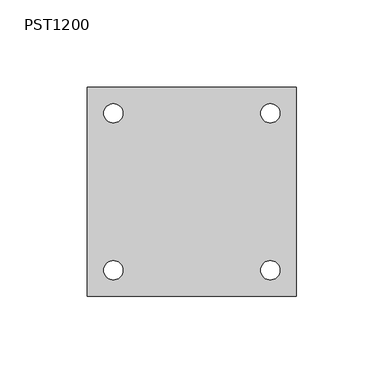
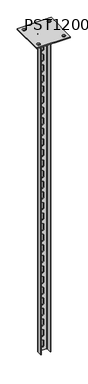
"""IFC4 building model written with IfcOpenShell, lengths in millimetres: proxy geometry, КМ Профиль_Стойка потолочная облегчённая PST : PST1200."""

from ifc_helpers import new_model, si_unit, point, frame, frame_2d, origin, place, context, project, spatial, polyline, circle_curve, trimmed, segment, composite_curve, outline, extrude, source, transform, mapped, element, save
from ifc_brep_helpers import plane_surface, cylinder_surface, revolved_surface, advanced_brep


def pst1200_ad20b11f(model_context):
    return source(origin(), model_context, "Body", "SolidModel", [
        advanced_brep(
        [(17.5, -11.5, -4.0), (17.5, 7.5, -4.0), (13.5, 11.5, -4.0), (-13.5, 11.5, -4.0), (-17.5, 7.5, -4.0), (-17.5, -11.5, -4.0), (-15.5, -11.5, -4.0), (-15.5, 7.5, -4.0), (-13.5, 9.5, -4.0), (13.5, 9.5, -4.0), (15.5, 7.5, -4.0), (15.5, -11.5, -4.0), (17.5, 7.5, -1204.0), (17.5, -11.5, -1204.0), (15.5, -11.5, -1204.0), (15.5, 7.5, -1204.0), (13.5, 9.5, -1204.0), (-13.5, 9.5, -1204.0), (-15.5, 7.5, -1204.0), (-15.5, -11.5, -1204.0), (-17.5, -11.5, -1204.0), (-17.5, 7.5, -1204.0), (-13.5, 11.5, -1204.0), (13.5, 11.5, -1204.0), (-5.0, 11.5, -53.0), (-5.0, 11.5, -68.0), (5.0, 11.5, -68.0), (5.0, 11.5, -53.0), (-5.0, 11.5, -93.0), (-5.0, 11.5, -108.0), (5.0, 11.5, -108.0), (5.0, 11.5, -93.0), (-5.0, 11.5, -133.0), (-5.0, 11.5, -148.0), (5.0, 11.5, -148.0), (5.0, 11.5, -133.0), (-5.0, 11.5, -173.0), (-5.0, 11.5, -188.0), (5.0, 11.5, -188.0), (5.0, 11.5, -173.0), (-5.0, 11.5, -213.0), (-5.0, 11.5, -228.0), (5.0, 11.5, -228.0), (5.0, 11.5, -213.0), (-5.0, 11.5, -13.0), (-5.0, 11.5, -28.0), (5.0, 11.5, -28.0), (5.0, 11.5, -13.0), (-5.0, 11.5, -253.0), (-5.0, 11.5, -268.0), (5.0, 11.5, -268.0), (5.0, 11.5, -253.0), (-5.0, 11.5, -293.0), (-5.0, 11.5, -308.0), (5.0, 11.5, -308.0), (5.0, 11.5, -293.0), (-5.0, 11.5, -333.0), (-5.0, 11.5, -348.0), (5.0, 11.5, -348.0), (5.0, 11.5, -333.0), (-5.0, 11.5, -373.0), (-5.0, 11.5, -388.0), (5.0, 11.5, -388.0), (5.0, 11.5, -373.0), (-5.0, 11.5, -413.0), (-5.0, 11.5, -428.0), (5.0, 11.5, -428.0), (5.0, 11.5, -413.0), (-5.0, 11.5, -453.0), (-5.0, 11.5, -468.0), (5.0, 11.5, -468.0), (5.0, 11.5, -453.0), (-5.0, 11.5, -493.0), (-5.0, 11.5, -508.0), (5.0, 11.5, -508.0), (5.0, 11.5, -493.0), (-5.0, 11.5, -533.0), (-5.0, 11.5, -548.0), (5.0, 11.5, -548.0), (5.0, 11.5, -533.0), (-5.0, 11.5, -573.0), (-5.0, 11.5, -588.0), (5.0, 11.5, -588.0), (5.0, 11.5, -573.0), (-5.0, 11.5, -613.0), (-5.0, 11.5, -628.0), (5.0, 11.5, -628.0), (5.0, 11.5, -613.0), (-5.0, 11.5, -653.0), (-5.0, 11.5, -668.0), (5.0, 11.5, -668.0), (5.0, 11.5, -653.0), (-5.0, 11.5, -693.0), (-5.0, 11.5, -708.0), (5.0, 11.5, -708.0), (5.0, 11.5, -693.0), (-5.0, 11.5, -733.0), (-5.0, 11.5, -748.0), (5.0, 11.5, -748.0), (5.0, 11.5, -733.0), (-5.0, 11.5, -773.0), (-5.0, 11.5, -788.0), (5.0, 11.5, -788.0), (5.0, 11.5, -773.0), (-5.0, 11.5, -813.0), (-5.0, 11.5, -828.0), (5.0, 11.5, -828.0), (5.0, 11.5, -813.0), (-5.0, 11.5, -853.0), (-5.0, 11.5, -868.0), (5.0, 11.5, -868.0), (5.0, 11.5, -853.0), (-5.0, 11.5, -893.0), (-5.0, 11.5, -908.0), (5.0, 11.5, -908.0), (5.0, 11.5, -893.0), (-5.0, 11.5, -933.0), (-5.0, 11.5, -948.0), (5.0, 11.5, -948.0), (5.0, 11.5, -933.0), (-5.0, 11.5, -973.0), (-5.0, 11.5, -988.0), (5.0, 11.5, -988.0), (5.0, 11.5, -973.0), (-5.0, 11.5, -1013.0), (-5.0, 11.5, -1028.0), (5.0, 11.5, -1028.0), (5.0, 11.5, -1013.0), (-5.0, 11.5, -1053.0), (-5.0, 11.5, -1068.0), (5.0, 11.5, -1068.0), (5.0, 11.5, -1053.0), (-5.0, 11.5, -1093.0), (-5.0, 11.5, -1108.0), (5.0, 11.5, -1108.0), (5.0, 11.5, -1093.0), (-5.0, 11.5, -1133.0), (-5.0, 11.5, -1148.0), (5.0, 11.5, -1148.0), (5.0, 11.5, -1133.0), (-5.0, 11.5, -1173.0), (-5.0, 11.5, -1188.0), (5.0, 11.5, -1188.0), (5.0, 11.5, -1173.0), (-5.0, 9.5, -68.0), (-5.0, 9.5, -53.0), (5.0, 9.5, -53.0), (5.0, 9.5, -68.0), (-5.0, 9.5, -108.0), (-5.0, 9.5, -93.0), (5.0, 9.5, -93.0), (5.0, 9.5, -108.0), (-5.0, 9.5, -148.0), (-5.0, 9.5, -133.0), (5.0, 9.5, -133.0), (5.0, 9.5, -148.0), (-5.0, 9.5, -188.0), (-5.0, 9.5, -173.0), (5.0, 9.5, -173.0), (5.0, 9.5, -188.0), (-5.0, 9.5, -228.0), (-5.0, 9.5, -213.0), (5.0, 9.5, -213.0), (5.0, 9.5, -228.0), (-5.0, 9.5, -28.0), (-5.0, 9.5, -13.0), (5.0, 9.5, -13.0), (5.0, 9.5, -28.0), (-5.0, 9.5, -268.0), (-5.0, 9.5, -253.0), (5.0, 9.5, -253.0), (5.0, 9.5, -268.0), (-5.0, 9.5, -308.0), (-5.0, 9.5, -293.0), (5.0, 9.5, -293.0), (5.0, 9.5, -308.0), (-5.0, 9.5, -348.0), (-5.0, 9.5, -333.0), (5.0, 9.5, -333.0), (5.0, 9.5, -348.0), (-5.0, 9.5, -388.0), (-5.0, 9.5, -373.0), (5.0, 9.5, -373.0), (5.0, 9.5, -388.0), (-5.0, 9.5, -428.0), (-5.0, 9.5, -413.0), (5.0, 9.5, -413.0), (5.0, 9.5, -428.0), (-5.0, 9.5, -468.0), (-5.0, 9.5, -453.0), (5.0, 9.5, -453.0), (5.0, 9.5, -468.0), (-5.0, 9.5, -508.0), (-5.0, 9.5, -493.0), (5.0, 9.5, -493.0), (5.0, 9.5, -508.0), (-5.0, 9.5, -548.0), (-5.0, 9.5, -533.0), (5.0, 9.5, -533.0), (5.0, 9.5, -548.0), (-5.0, 9.5, -588.0), (-5.0, 9.5, -573.0), (5.0, 9.5, -573.0), (5.0, 9.5, -588.0), (-5.0, 9.5, -628.0), (-5.0, 9.5, -613.0), (5.0, 9.5, -613.0), (5.0, 9.5, -628.0), (-5.0, 9.5, -668.0), (-5.0, 9.5, -653.0), (5.0, 9.5, -653.0), (5.0, 9.5, -668.0), (-5.0, 9.5, -708.0), (-5.0, 9.5, -693.0), (5.0, 9.5, -693.0), (5.0, 9.5, -708.0), (-5.0, 9.5, -748.0), (-5.0, 9.5, -733.0), (5.0, 9.5, -733.0), (5.0, 9.5, -748.0), (-5.0, 9.5, -788.0), (-5.0, 9.5, -773.0), (5.0, 9.5, -773.0), (5.0, 9.5, -788.0), (-5.0, 9.5, -828.0), (-5.0, 9.5, -813.0), (5.0, 9.5, -813.0), (5.0, 9.5, -828.0), (-5.0, 9.5, -868.0), (-5.0, 9.5, -853.0), (5.0, 9.5, -853.0), (5.0, 9.5, -868.0), (-5.0, 9.5, -908.0), (-5.0, 9.5, -893.0), (5.0, 9.5, -893.0), (5.0, 9.5, -908.0), (-5.0, 9.5, -948.0), (-5.0, 9.5, -933.0), (5.0, 9.5, -933.0), (5.0, 9.5, -948.0), (-5.0, 9.5, -988.0), (-5.0, 9.5, -973.0), (5.0, 9.5, -973.0), (5.0, 9.5, -988.0), (-5.0, 9.5, -1028.0), (-5.0, 9.5, -1013.0), (5.0, 9.5, -1013.0), (5.0, 9.5, -1028.0), (-5.0, 9.5, -1068.0), (-5.0, 9.5, -1053.0), (5.0, 9.5, -1053.0), (5.0, 9.5, -1068.0), (-5.0, 9.5, -1108.0), (-5.0, 9.5, -1093.0), (5.0, 9.5, -1093.0), (5.0, 9.5, -1108.0), (-5.0, 9.5, -1148.0), (-5.0, 9.5, -1133.0), (5.0, 9.5, -1133.0), (5.0, 9.5, -1148.0), (-5.0, 9.5, -1188.0), (-5.0, 9.5, -1173.0), (5.0, 9.5, -1173.0), (5.0, 9.5, -1188.0)],
        [
            (0, 1),
            (1, 2, circle_curve(frame((13.5, 7.5, -4.0), z_axis=(0.0, 0.0, 1.0), x_axis=(1.0, 0.0, 0.0)), 4.0)),
            (2, 3),
            (3, 4, circle_curve(frame((-13.5, 7.5, -4.0), z_axis=(0.0, 0.0, 1.0), x_axis=(1.0, 0.0, 0.0)), 4.0)),
            (4, 5),
            (5, 6),
            (6, 7),
            (7, 8, circle_curve(frame((-13.5, 7.5, -4.0), z_axis=(0.0, 0.0, -1.0), x_axis=(1.0, 0.0, 0.0)), 2.0)),
            (8, 9),
            (9, 10, circle_curve(frame((13.5, 7.5, -4.0), z_axis=(0.0, 0.0, -1.0), x_axis=(1.0, 0.0, 0.0)), 2.0)),
            (10, 11),
            (11, 0),
            (12, 13),
            (13, 14),
            (14, 15),
            (15, 16, circle_curve(frame((13.5, 7.5, -1204.0), z_axis=(0.0, 0.0, 1.0), x_axis=(1.0, 0.0, 0.0)), 2.0)),
            (16, 17),
            (17, 18, circle_curve(frame((-13.5, 7.5, -1204.0), z_axis=(0.0, 0.0, 1.0), x_axis=(1.0, 0.0, 0.0)), 2.0)),
            (18, 19),
            (19, 20),
            (20, 21),
            (21, 22, circle_curve(frame((-13.5, 7.5, -1204.0), z_axis=(0.0, 0.0, -1.0), x_axis=(1.0, 0.0, 0.0)), 4.0)),
            (22, 23),
            (23, 12, circle_curve(frame((13.5, 7.5, -1204.0), z_axis=(0.0, 0.0, -1.0), x_axis=(1.0, 0.0, 0.0)), 4.0)),
            (0, 13),
            (12, 1),
            (23, 2),
            (22, 3),
            (24, 25),
            (25, 26, circle_curve(frame((0.0, 11.5, -68.0), z_axis=(0.0, -1.0, 0.0), x_axis=(0.0, 0.0, -1.0)), 5.0)),
            (26, 27),
            (27, 24, circle_curve(frame((0.0, 11.5, -53.0), z_axis=(0.0, -1.0, 0.0), x_axis=(0.0, 0.0, -1.0)), 5.0)),
            (28, 29),
            (29, 30, circle_curve(frame((0.0, 11.5, -108.0), z_axis=(0.0, -1.0, 0.0), x_axis=(0.0, 0.0, -1.0)), 5.0)),
            (30, 31),
            (31, 28, circle_curve(frame((0.0, 11.5, -93.0), z_axis=(0.0, -1.0, 0.0), x_axis=(0.0, 0.0, -1.0)), 5.0)),
            (32, 33),
            (33, 34, circle_curve(frame((0.0, 11.5, -148.0), z_axis=(0.0, -1.0, 0.0), x_axis=(0.0, 0.0, -1.0)), 5.0)),
            (34, 35),
            (35, 32, circle_curve(frame((0.0, 11.5, -133.0), z_axis=(0.0, -1.0, 0.0), x_axis=(0.0, 0.0, -1.0)), 5.0)),
            (36, 37),
            (37, 38, circle_curve(frame((0.0, 11.5, -188.0), z_axis=(0.0, -1.0, 0.0), x_axis=(0.0, 0.0, -1.0)), 5.0)),
            (38, 39),
            (39, 36, circle_curve(frame((0.0, 11.5, -173.0), z_axis=(0.0, -1.0, 0.0), x_axis=(0.0, 0.0, -1.0)), 5.0)),
            (40, 41),
            (41, 42, circle_curve(frame((0.0, 11.5, -228.0), z_axis=(0.0, -1.0, 0.0), x_axis=(0.0, 0.0, -1.0)), 5.0)),
            (42, 43),
            (43, 40, circle_curve(frame((0.0, 11.5, -213.0), z_axis=(0.0, -1.0, 0.0), x_axis=(0.0, 0.0, -1.0)), 5.0)),
            (44, 45),
            (45, 46, circle_curve(frame((0.0, 11.5, -28.0), z_axis=(0.0, -1.0, 0.0), x_axis=(0.0, 0.0, -1.0)), 5.0)),
            (46, 47),
            (47, 44, circle_curve(frame((0.0, 11.5, -13.0), z_axis=(0.0, -1.0, 0.0), x_axis=(0.0, 0.0, -1.0)), 5.0)),
            (48, 49),
            (49, 50, circle_curve(frame((0.0, 11.5, -268.0), z_axis=(0.0, -1.0, 0.0), x_axis=(0.0, 0.0, -1.0)), 5.0)),
            (50, 51),
            (51, 48, circle_curve(frame((0.0, 11.5, -253.0), z_axis=(0.0, -1.0, 0.0), x_axis=(0.0, 0.0, -1.0)), 5.0)),
            (52, 53),
            (53, 54, circle_curve(frame((0.0, 11.5, -308.0), z_axis=(0.0, -1.0, 0.0), x_axis=(0.0, 0.0, -1.0)), 5.0)),
            (54, 55),
            (55, 52, circle_curve(frame((0.0, 11.5, -293.0), z_axis=(0.0, -1.0, 0.0), x_axis=(0.0, 0.0, -1.0)), 5.0)),
            (56, 57),
            (57, 58, circle_curve(frame((0.0, 11.5, -348.0), z_axis=(0.0, -1.0, 0.0), x_axis=(0.0, 0.0, -1.0)), 5.0)),
            (58, 59),
            (59, 56, circle_curve(frame((0.0, 11.5, -333.0), z_axis=(0.0, -1.0, 0.0), x_axis=(0.0, 0.0, -1.0)), 5.0)),
            (60, 61),
            (61, 62, circle_curve(frame((0.0, 11.5, -388.0), z_axis=(0.0, -1.0, 0.0), x_axis=(0.0, 0.0, -1.0)), 5.0)),
            (62, 63),
            (63, 60, circle_curve(frame((0.0, 11.5, -373.0), z_axis=(0.0, -1.0, 0.0), x_axis=(0.0, 0.0, -1.0)), 5.0)),
            (64, 65),
            (65, 66, circle_curve(frame((0.0, 11.5, -428.0), z_axis=(0.0, -1.0, 0.0), x_axis=(0.0, 0.0, -1.0)), 5.0)),
            (66, 67),
            (67, 64, circle_curve(frame((0.0, 11.5, -413.0), z_axis=(0.0, -1.0, 0.0), x_axis=(0.0, 0.0, -1.0)), 5.0)),
            (68, 69),
            (69, 70, circle_curve(frame((0.0, 11.5, -468.0), z_axis=(0.0, -1.0, 0.0), x_axis=(0.0, 0.0, -1.0)), 5.0)),
            (70, 71),
            (71, 68, circle_curve(frame((0.0, 11.5, -453.0), z_axis=(0.0, -1.0, 0.0), x_axis=(0.0, 0.0, -1.0)), 5.0)),
            (72, 73),
            (73, 74, circle_curve(frame((0.0, 11.5, -508.0), z_axis=(0.0, -1.0, 0.0), x_axis=(0.0, 0.0, -1.0)), 5.0)),
            (74, 75),
            (75, 72, circle_curve(frame((0.0, 11.5, -493.0), z_axis=(0.0, -1.0, 0.0), x_axis=(0.0, 0.0, -1.0)), 5.0)),
            (76, 77),
            (77, 78, circle_curve(frame((0.0, 11.5, -548.0), z_axis=(0.0, -1.0, 0.0), x_axis=(0.0, 0.0, -1.0)), 5.0)),
            (78, 79),
            (79, 76, circle_curve(frame((0.0, 11.5, -533.0), z_axis=(0.0, -1.0, 0.0), x_axis=(0.0, 0.0, -1.0)), 5.0)),
            (80, 81),
            (81, 82, circle_curve(frame((0.0, 11.5, -588.0), z_axis=(0.0, -1.0, 0.0), x_axis=(0.0, 0.0, -1.0)), 5.0)),
            (82, 83),
            (83, 80, circle_curve(frame((0.0, 11.5, -573.0), z_axis=(0.0, -1.0, 0.0), x_axis=(0.0, 0.0, -1.0)), 5.0)),
            (84, 85),
            (85, 86, circle_curve(frame((0.0, 11.5, -628.0), z_axis=(0.0, -1.0, 0.0), x_axis=(0.0, 0.0, -1.0)), 5.0)),
            (86, 87),
            (87, 84, circle_curve(frame((0.0, 11.5, -613.0), z_axis=(0.0, -1.0, 0.0), x_axis=(0.0, 0.0, -1.0)), 5.0)),
            (88, 89),
            (89, 90, circle_curve(frame((0.0, 11.5, -668.0), z_axis=(0.0, -1.0, 0.0), x_axis=(0.0, 0.0, -1.0)), 5.0)),
            (90, 91),
            (91, 88, circle_curve(frame((0.0, 11.5, -653.0), z_axis=(0.0, -1.0, 0.0), x_axis=(0.0, 0.0, -1.0)), 5.0)),
            (92, 93),
            (93, 94, circle_curve(frame((0.0, 11.5, -708.0), z_axis=(0.0, -1.0, 0.0), x_axis=(0.0, 0.0, -1.0)), 5.0)),
            (94, 95),
            (95, 92, circle_curve(frame((0.0, 11.5, -693.0), z_axis=(0.0, -1.0, 0.0), x_axis=(0.0, 0.0, -1.0)), 5.0)),
            (96, 97),
            (97, 98, circle_curve(frame((0.0, 11.5, -748.0), z_axis=(0.0, -1.0, 0.0), x_axis=(0.0, 0.0, -1.0)), 5.0)),
            (98, 99),
            (99, 96, circle_curve(frame((0.0, 11.5, -733.0), z_axis=(0.0, -1.0, 0.0), x_axis=(0.0, 0.0, -1.0)), 5.0)),
            (100, 101),
            (101, 102, circle_curve(frame((0.0, 11.5, -788.0), z_axis=(0.0, -1.0, 0.0), x_axis=(0.0, 0.0, -1.0)), 5.0)),
            (102, 103),
            (103, 100, circle_curve(frame((0.0, 11.5, -773.0), z_axis=(0.0, -1.0, 0.0), x_axis=(0.0, 0.0, -1.0)), 5.0)),
            (104, 105),
            (105, 106, circle_curve(frame((0.0, 11.5, -828.0), z_axis=(0.0, -1.0, 0.0), x_axis=(0.0, 0.0, -1.0)), 5.0)),
            (106, 107),
            (107, 104, circle_curve(frame((0.0, 11.5, -813.0), z_axis=(0.0, -1.0, 0.0), x_axis=(0.0, 0.0, -1.0)), 5.0)),
            (108, 109),
            (109, 110, circle_curve(frame((0.0, 11.5, -868.0), z_axis=(0.0, -1.0, 0.0), x_axis=(0.0, 0.0, -1.0)), 5.0)),
            (110, 111),
            (111, 108, circle_curve(frame((0.0, 11.5, -853.0), z_axis=(0.0, -1.0, 0.0), x_axis=(0.0, 0.0, -1.0)), 5.0)),
            (112, 113),
            (113, 114, circle_curve(frame((0.0, 11.5, -908.0), z_axis=(0.0, -1.0, 0.0), x_axis=(0.0, 0.0, -1.0)), 5.0)),
            (114, 115),
            (115, 112, circle_curve(frame((0.0, 11.5, -893.0), z_axis=(0.0, -1.0, 0.0), x_axis=(0.0, 0.0, -1.0)), 5.0)),
            (116, 117),
            (117, 118, circle_curve(frame((0.0, 11.5, -948.0), z_axis=(0.0, -1.0, 0.0), x_axis=(0.0, 0.0, -1.0)), 5.0)),
            (118, 119),
            (119, 116, circle_curve(frame((0.0, 11.5, -933.0), z_axis=(0.0, -1.0, 0.0), x_axis=(0.0, 0.0, -1.0)), 5.0)),
            (120, 121),
            (121, 122, circle_curve(frame((0.0, 11.5, -988.0), z_axis=(0.0, -1.0, 0.0), x_axis=(0.0, 0.0, -1.0)), 5.0)),
            (122, 123),
            (123, 120, circle_curve(frame((0.0, 11.5, -973.0), z_axis=(0.0, -1.0, 0.0), x_axis=(0.0, 0.0, -1.0)), 5.0)),
            (124, 125),
            (125, 126, circle_curve(frame((0.0, 11.5, -1028.0), z_axis=(0.0, -1.0, 0.0), x_axis=(0.0, 0.0, -1.0)), 5.0)),
            (126, 127),
            (127, 124, circle_curve(frame((0.0, 11.5, -1013.0), z_axis=(0.0, -1.0, 0.0), x_axis=(0.0, 0.0, -1.0)), 5.0)),
            (128, 129),
            (129, 130, circle_curve(frame((0.0, 11.5, -1068.0), z_axis=(0.0, -1.0, 0.0), x_axis=(0.0, 0.0, -1.0)), 5.0)),
            (130, 131),
            (131, 128, circle_curve(frame((0.0, 11.5, -1053.0), z_axis=(0.0, -1.0, 0.0), x_axis=(0.0, 0.0, -1.0)), 5.0)),
            (132, 133),
            (133, 134, circle_curve(frame((0.0, 11.5, -1108.0), z_axis=(0.0, -1.0, 0.0), x_axis=(0.0, 0.0, -1.0)), 5.0)),
            (134, 135),
            (135, 132, circle_curve(frame((0.0, 11.5, -1093.0), z_axis=(0.0, -1.0, 0.0), x_axis=(0.0, 0.0, -1.0)), 5.0)),
            (136, 137),
            (137, 138, circle_curve(frame((0.0, 11.5, -1148.0), z_axis=(0.0, -1.0, 0.0), x_axis=(0.0, 0.0, -1.0)), 5.0)),
            (138, 139),
            (139, 136, circle_curve(frame((0.0, 11.5, -1133.0), z_axis=(0.0, -1.0, 0.0), x_axis=(0.0, 0.0, -1.0)), 5.0)),
            (140, 141),
            (141, 142, circle_curve(frame((0.0, 11.5, -1188.0), z_axis=(0.0, -1.0, 0.0), x_axis=(0.0, 0.0, -1.0)), 5.0)),
            (142, 143),
            (143, 140, circle_curve(frame((0.0, 11.5, -1173.0), z_axis=(0.0, -1.0, 0.0), x_axis=(0.0, 0.0, -1.0)), 5.0)),
            (21, 4),
            (20, 5),
            (19, 6),
            (18, 7),
            (17, 8),
            (16, 9),
            (144, 145),
            (145, 146, circle_curve(frame((0.0, 9.5, -53.0), z_axis=(0.0, 1.0, 0.0), x_axis=(0.0, 0.0, -1.0)), 5.0)),
            (146, 147),
            (147, 144, circle_curve(frame((0.0, 9.5, -68.0), z_axis=(0.0, 1.0, 0.0), x_axis=(0.0, 0.0, -1.0)), 5.0)),
            (148, 149),
            (149, 150, circle_curve(frame((0.0, 9.5, -93.0), z_axis=(0.0, 1.0, 0.0), x_axis=(0.0, 0.0, -1.0)), 5.0)),
            (150, 151),
            (151, 148, circle_curve(frame((0.0, 9.5, -108.0), z_axis=(0.0, 1.0, 0.0), x_axis=(0.0, 0.0, -1.0)), 5.0)),
            (152, 153),
            (153, 154, circle_curve(frame((0.0, 9.5, -133.0), z_axis=(0.0, 1.0, 0.0), x_axis=(0.0, 0.0, -1.0)), 5.0)),
            (154, 155),
            (155, 152, circle_curve(frame((0.0, 9.5, -148.0), z_axis=(0.0, 1.0, 0.0), x_axis=(0.0, 0.0, -1.0)), 5.0)),
            (156, 157),
            (157, 158, circle_curve(frame((0.0, 9.5, -173.0), z_axis=(0.0, 1.0, 0.0), x_axis=(0.0, 0.0, -1.0)), 5.0)),
            (158, 159),
            (159, 156, circle_curve(frame((0.0, 9.5, -188.0), z_axis=(0.0, 1.0, 0.0), x_axis=(0.0, 0.0, -1.0)), 5.0)),
            (160, 161),
            (161, 162, circle_curve(frame((0.0, 9.5, -213.0), z_axis=(0.0, 1.0, 0.0), x_axis=(0.0, 0.0, -1.0)), 5.0)),
            (162, 163),
            (163, 160, circle_curve(frame((0.0, 9.5, -228.0), z_axis=(0.0, 1.0, 0.0), x_axis=(0.0, 0.0, -1.0)), 5.0)),
            (164, 165),
            (165, 166, circle_curve(frame((0.0, 9.5, -13.0), z_axis=(0.0, 1.0, 0.0), x_axis=(0.0, 0.0, -1.0)), 5.0)),
            (166, 167),
            (167, 164, circle_curve(frame((0.0, 9.5, -28.0), z_axis=(0.0, 1.0, 0.0), x_axis=(0.0, 0.0, -1.0)), 5.0)),
            (168, 169),
            (169, 170, circle_curve(frame((0.0, 9.5, -253.0), z_axis=(0.0, 1.0, 0.0), x_axis=(0.0, 0.0, -1.0)), 5.0)),
            (170, 171),
            (171, 168, circle_curve(frame((0.0, 9.5, -268.0), z_axis=(0.0, 1.0, 0.0), x_axis=(0.0, 0.0, -1.0)), 5.0)),
            (172, 173),
            (173, 174, circle_curve(frame((0.0, 9.5, -293.0), z_axis=(0.0, 1.0, 0.0), x_axis=(0.0, 0.0, -1.0)), 5.0)),
            (174, 175),
            (175, 172, circle_curve(frame((0.0, 9.5, -308.0), z_axis=(0.0, 1.0, 0.0), x_axis=(0.0, 0.0, -1.0)), 5.0)),
            (176, 177),
            (177, 178, circle_curve(frame((0.0, 9.5, -333.0), z_axis=(0.0, 1.0, 0.0), x_axis=(0.0, 0.0, -1.0)), 5.0)),
            (178, 179),
            (179, 176, circle_curve(frame((0.0, 9.5, -348.0), z_axis=(0.0, 1.0, 0.0), x_axis=(0.0, 0.0, -1.0)), 5.0)),
            (180, 181),
            (181, 182, circle_curve(frame((0.0, 9.5, -373.0), z_axis=(0.0, 1.0, 0.0), x_axis=(0.0, 0.0, -1.0)), 5.0)),
            (182, 183),
            (183, 180, circle_curve(frame((0.0, 9.5, -388.0), z_axis=(0.0, 1.0, 0.0), x_axis=(0.0, 0.0, -1.0)), 5.0)),
            (184, 185),
            (185, 186, circle_curve(frame((0.0, 9.5, -413.0), z_axis=(0.0, 1.0, 0.0), x_axis=(0.0, 0.0, -1.0)), 5.0)),
            (186, 187),
            (187, 184, circle_curve(frame((0.0, 9.5, -428.0), z_axis=(0.0, 1.0, 0.0), x_axis=(0.0, 0.0, -1.0)), 5.0)),
            (188, 189),
            (189, 190, circle_curve(frame((0.0, 9.5, -453.0), z_axis=(0.0, 1.0, 0.0), x_axis=(0.0, 0.0, -1.0)), 5.0)),
            (190, 191),
            (191, 188, circle_curve(frame((0.0, 9.5, -468.0), z_axis=(0.0, 1.0, 0.0), x_axis=(0.0, 0.0, -1.0)), 5.0)),
            (192, 193),
            (193, 194, circle_curve(frame((0.0, 9.5, -493.0), z_axis=(0.0, 1.0, 0.0), x_axis=(0.0, 0.0, -1.0)), 5.0)),
            (194, 195),
            (195, 192, circle_curve(frame((0.0, 9.5, -508.0), z_axis=(0.0, 1.0, 0.0), x_axis=(0.0, 0.0, -1.0)), 5.0)),
            (196, 197),
            (197, 198, circle_curve(frame((0.0, 9.5, -533.0), z_axis=(0.0, 1.0, 0.0), x_axis=(0.0, 0.0, -1.0)), 5.0)),
            (198, 199),
            (199, 196, circle_curve(frame((0.0, 9.5, -548.0), z_axis=(0.0, 1.0, 0.0), x_axis=(0.0, 0.0, -1.0)), 5.0)),
            (200, 201),
            (201, 202, circle_curve(frame((0.0, 9.5, -573.0), z_axis=(0.0, 1.0, 0.0), x_axis=(0.0, 0.0, -1.0)), 5.0)),
            (202, 203),
            (203, 200, circle_curve(frame((0.0, 9.5, -588.0), z_axis=(0.0, 1.0, 0.0), x_axis=(0.0, 0.0, -1.0)), 5.0)),
            (204, 205),
            (205, 206, circle_curve(frame((0.0, 9.5, -613.0), z_axis=(0.0, 1.0, 0.0), x_axis=(0.0, 0.0, -1.0)), 5.0)),
            (206, 207),
            (207, 204, circle_curve(frame((0.0, 9.5, -628.0), z_axis=(0.0, 1.0, 0.0), x_axis=(0.0, 0.0, -1.0)), 5.0)),
            (208, 209),
            (209, 210, circle_curve(frame((0.0, 9.5, -653.0), z_axis=(0.0, 1.0, 0.0), x_axis=(0.0, 0.0, -1.0)), 5.0)),
            (210, 211),
            (211, 208, circle_curve(frame((0.0, 9.5, -668.0), z_axis=(0.0, 1.0, 0.0), x_axis=(0.0, 0.0, -1.0)), 5.0)),
            (212, 213),
            (213, 214, circle_curve(frame((0.0, 9.5, -693.0), z_axis=(0.0, 1.0, 0.0), x_axis=(0.0, 0.0, -1.0)), 5.0)),
            (214, 215),
            (215, 212, circle_curve(frame((0.0, 9.5, -708.0), z_axis=(0.0, 1.0, 0.0), x_axis=(0.0, 0.0, -1.0)), 5.0)),
            (216, 217),
            (217, 218, circle_curve(frame((0.0, 9.5, -733.0), z_axis=(0.0, 1.0, 0.0), x_axis=(0.0, 0.0, -1.0)), 5.0)),
            (218, 219),
            (219, 216, circle_curve(frame((0.0, 9.5, -748.0), z_axis=(0.0, 1.0, 0.0), x_axis=(0.0, 0.0, -1.0)), 5.0)),
            (220, 221),
            (221, 222, circle_curve(frame((0.0, 9.5, -773.0), z_axis=(0.0, 1.0, 0.0), x_axis=(0.0, 0.0, -1.0)), 5.0)),
            (222, 223),
            (223, 220, circle_curve(frame((0.0, 9.5, -788.0), z_axis=(0.0, 1.0, 0.0), x_axis=(0.0, 0.0, -1.0)), 5.0)),
            (224, 225),
            (225, 226, circle_curve(frame((0.0, 9.5, -813.0), z_axis=(0.0, 1.0, 0.0), x_axis=(0.0, 0.0, -1.0)), 5.0)),
            (226, 227),
            (227, 224, circle_curve(frame((0.0, 9.5, -828.0), z_axis=(0.0, 1.0, 0.0), x_axis=(0.0, 0.0, -1.0)), 5.0)),
            (228, 229),
            (229, 230, circle_curve(frame((0.0, 9.5, -853.0), z_axis=(0.0, 1.0, 0.0), x_axis=(0.0, 0.0, -1.0)), 5.0)),
            (230, 231),
            (231, 228, circle_curve(frame((0.0, 9.5, -868.0), z_axis=(0.0, 1.0, 0.0), x_axis=(0.0, 0.0, -1.0)), 5.0)),
            (232, 233),
            (233, 234, circle_curve(frame((0.0, 9.5, -893.0), z_axis=(0.0, 1.0, 0.0), x_axis=(0.0, 0.0, -1.0)), 5.0)),
            (234, 235),
            (235, 232, circle_curve(frame((0.0, 9.5, -908.0), z_axis=(0.0, 1.0, 0.0), x_axis=(0.0, 0.0, -1.0)), 5.0)),
            (236, 237),
            (237, 238, circle_curve(frame((0.0, 9.5, -933.0), z_axis=(0.0, 1.0, 0.0), x_axis=(0.0, 0.0, -1.0)), 5.0)),
            (238, 239),
            (239, 236, circle_curve(frame((0.0, 9.5, -948.0), z_axis=(0.0, 1.0, 0.0), x_axis=(0.0, 0.0, -1.0)), 5.0)),
            (240, 241),
            (241, 242, circle_curve(frame((0.0, 9.5, -973.0), z_axis=(0.0, 1.0, 0.0), x_axis=(0.0, 0.0, -1.0)), 5.0)),
            (242, 243),
            (243, 240, circle_curve(frame((0.0, 9.5, -988.0), z_axis=(0.0, 1.0, 0.0), x_axis=(0.0, 0.0, -1.0)), 5.0)),
            (244, 245),
            (245, 246, circle_curve(frame((0.0, 9.5, -1013.0), z_axis=(0.0, 1.0, 0.0), x_axis=(0.0, 0.0, -1.0)), 5.0)),
            (246, 247),
            (247, 244, circle_curve(frame((0.0, 9.5, -1028.0), z_axis=(0.0, 1.0, 0.0), x_axis=(0.0, 0.0, -1.0)), 5.0)),
            (248, 249),
            (249, 250, circle_curve(frame((0.0, 9.5, -1053.0), z_axis=(0.0, 1.0, 0.0), x_axis=(0.0, 0.0, -1.0)), 5.0)),
            (250, 251),
            (251, 248, circle_curve(frame((0.0, 9.5, -1068.0), z_axis=(0.0, 1.0, 0.0), x_axis=(0.0, 0.0, -1.0)), 5.0)),
            (252, 253),
            (253, 254, circle_curve(frame((0.0, 9.5, -1093.0), z_axis=(0.0, 1.0, 0.0), x_axis=(0.0, 0.0, -1.0)), 5.0)),
            (254, 255),
            (255, 252, circle_curve(frame((0.0, 9.5, -1108.0), z_axis=(0.0, 1.0, 0.0), x_axis=(0.0, 0.0, -1.0)), 5.0)),
            (256, 257),
            (257, 258, circle_curve(frame((0.0, 9.5, -1133.0), z_axis=(0.0, 1.0, 0.0), x_axis=(0.0, 0.0, -1.0)), 5.0)),
            (258, 259),
            (259, 256, circle_curve(frame((0.0, 9.5, -1148.0), z_axis=(0.0, 1.0, 0.0), x_axis=(0.0, 0.0, -1.0)), 5.0)),
            (260, 261),
            (261, 262, circle_curve(frame((0.0, 9.5, -1173.0), z_axis=(0.0, 1.0, 0.0), x_axis=(0.0, 0.0, -1.0)), 5.0)),
            (262, 263),
            (263, 260, circle_curve(frame((0.0, 9.5, -1188.0), z_axis=(0.0, 1.0, 0.0), x_axis=(0.0, 0.0, -1.0)), 5.0)),
            (15, 10),
            (14, 11),
            (24, 145),
            (144, 25),
            (27, 146),
            (26, 147),
            (28, 149),
            (148, 29),
            (31, 150),
            (30, 151),
            (32, 153),
            (152, 33),
            (35, 154),
            (34, 155),
            (36, 157),
            (156, 37),
            (39, 158),
            (38, 159),
            (40, 161),
            (160, 41),
            (43, 162),
            (42, 163),
            (44, 165),
            (164, 45),
            (47, 166),
            (46, 167),
            (48, 169),
            (168, 49),
            (51, 170),
            (50, 171),
            (52, 173),
            (172, 53),
            (55, 174),
            (54, 175),
            (56, 177),
            (176, 57),
            (59, 178),
            (58, 179),
            (60, 181),
            (180, 61),
            (63, 182),
            (62, 183),
            (64, 185),
            (184, 65),
            (67, 186),
            (66, 187),
            (68, 189),
            (188, 69),
            (71, 190),
            (70, 191),
            (72, 193),
            (192, 73),
            (75, 194),
            (74, 195),
            (76, 197),
            (196, 77),
            (79, 198),
            (78, 199),
            (80, 201),
            (200, 81),
            (83, 202),
            (82, 203),
            (84, 205),
            (204, 85),
            (87, 206),
            (86, 207),
            (88, 209),
            (208, 89),
            (91, 210),
            (90, 211),
            (92, 213),
            (212, 93),
            (95, 214),
            (94, 215),
            (96, 217),
            (216, 97),
            (99, 218),
            (98, 219),
            (100, 221),
            (220, 101),
            (103, 222),
            (102, 223),
            (104, 225),
            (224, 105),
            (107, 226),
            (106, 227),
            (108, 229),
            (228, 109),
            (111, 230),
            (110, 231),
            (112, 233),
            (232, 113),
            (115, 234),
            (114, 235),
            (116, 237),
            (236, 117),
            (119, 238),
            (118, 239),
            (120, 241),
            (240, 121),
            (123, 242),
            (122, 243),
            (124, 245),
            (244, 125),
            (127, 246),
            (126, 247),
            (128, 249),
            (248, 129),
            (131, 250),
            (130, 251),
            (132, 253),
            (252, 133),
            (135, 254),
            (134, 255),
            (136, 257),
            (256, 137),
            (139, 258),
            (138, 259),
            (140, 261),
            (260, 141),
            (143, 262),
            (142, 263),
        ],
        [
            plane_surface(frame((17.5, 70.8587358, -4.0), z_axis=(0.0, 0.0, 1.0), x_axis=(0.0, 1.0, 0.0))),
            plane_surface(frame((17.5, 70.8587358, -1204.0), z_axis=(0.0, 0.0, -1.0), x_axis=(0.0, -1.0, 0.0))),
            plane_surface(frame((17.5, -11.5, -4.0), z_axis=(1.0, 0.0, 0.0), x_axis=(0.0, 0.0, -1.0))),
            cylinder_surface(frame((13.5, 7.5, -1204.0), z_axis=(0.0, 0.0, 1.0), x_axis=(1.0, 0.0, 0.0)), 4.0),
            plane_surface(frame((13.5, 11.5, -4.0), z_axis=(0.0, 1.0, 0.0), x_axis=(0.0, 0.0, -1.0))),
            cylinder_surface(frame((-13.5, 7.5, -1204.0), z_axis=(0.0, 0.0, 1.0), x_axis=(1.0, 0.0, 0.0)), 4.0),
            plane_surface(frame((-17.5, 7.5, -4.0), z_axis=(-1.0, 0.0, 0.0), x_axis=(0.0, 0.0, -1.0))),
            plane_surface(frame((-17.5, -11.5, -4.0), z_axis=(0.0, -1.0, 0.0), x_axis=(0.0, 0.0, -1.0))),
            plane_surface(frame((-15.5, -11.5, -4.0), z_axis=(1.0, 0.0, 0.0), x_axis=(0.0, 0.0, -1.0))),
            revolved_surface(polyline([(-11.5, 7.5, -1204.0), (-11.5, 7.5, -4.0)]), (-13.5, 7.5, -1204.0), (0.0, 0.0, -1.0)),
            plane_surface(frame((-13.5, 9.5, -4.0), z_axis=(0.0, -1.0, 0.0), x_axis=(0.0, 0.0, -1.0))),
            revolved_surface(polyline([(15.5, 7.5, -1204.0), (15.5, 7.5, -4.0)]), (13.5, 7.5, -1204.0), (0.0, 0.0, -1.0)),
            plane_surface(frame((15.5, 7.5, -4.0), z_axis=(-1.0, 0.0, 0.0), x_axis=(0.0, 0.0, -1.0))),
            plane_surface(frame((15.5, -11.5, -4.0), z_axis=(0.0, -1.0, 0.0), x_axis=(0.0, 0.0, -1.0))),
            plane_surface(frame((-5.0, 11.5, -68.0), z_axis=(1.0, 0.0, 0.0), x_axis=(0.0, -1.0, 0.0))),
            revolved_surface(polyline([(0.0, 11.5, -58.0), (0.0, 9.5, -58.0)]), (0.0, 9.5, -53.0), (0.0, 1.0, 0.0)),
            plane_surface(frame((5.0, 11.5, -53.0), z_axis=(-1.0, 0.0, 0.0), x_axis=(0.0, -1.0, 0.0))),
            revolved_surface(polyline([(0.0, 11.5, -73.0), (0.0, 9.5, -73.0)]), (0.0, 9.5, -68.0), (0.0, 1.0, 0.0)),
            plane_surface(frame((-5.0, 11.5, -108.0), z_axis=(1.0, 0.0, 0.0), x_axis=(0.0, -1.0, 0.0))),
            revolved_surface(polyline([(0.0, 11.5, -98.0), (0.0, 9.5, -98.0)]), (0.0, 9.5, -93.0), (0.0, 1.0, 0.0)),
            plane_surface(frame((5.0, 11.5, -93.0), z_axis=(-1.0, 0.0, 0.0), x_axis=(0.0, -1.0, 0.0))),
            revolved_surface(polyline([(0.0, 11.5, -113.0), (0.0, 9.5, -113.0)]), (0.0, 9.5, -108.0), (0.0, 1.0, 0.0)),
            plane_surface(frame((-5.0, 11.5, -148.0), z_axis=(1.0, 0.0, 0.0), x_axis=(0.0, -1.0, 0.0))),
            revolved_surface(polyline([(0.0, 11.5, -138.0), (0.0, 9.5, -138.0)]), (0.0, 9.5, -133.0), (0.0, 1.0, 0.0)),
            plane_surface(frame((5.0, 11.5, -133.0), z_axis=(-1.0, 0.0, 0.0), x_axis=(0.0, -1.0, 0.0))),
            revolved_surface(polyline([(0.0, 11.5, -153.0), (0.0, 9.5, -153.0)]), (0.0, 9.5, -148.0), (0.0, 1.0, 0.0)),
            plane_surface(frame((-5.0, 11.5, -188.0), z_axis=(1.0, 0.0, 0.0), x_axis=(0.0, -1.0, 0.0))),
            revolved_surface(polyline([(0.0, 11.5, -178.0), (0.0, 9.5, -178.0)]), (0.0, 9.5, -173.0), (0.0, 1.0, 0.0)),
            plane_surface(frame((5.0, 11.5, -173.0), z_axis=(-1.0, 0.0, 0.0), x_axis=(0.0, -1.0, 0.0))),
            revolved_surface(polyline([(0.0, 11.5, -193.0), (0.0, 9.5, -193.0)]), (0.0, 9.5, -188.0), (0.0, 1.0, 0.0)),
            plane_surface(frame((-5.0, 11.5, -228.0), z_axis=(1.0, 0.0, 0.0), x_axis=(0.0, -1.0, 0.0))),
            revolved_surface(polyline([(0.0, 11.5, -218.0), (0.0, 9.5, -218.0)]), (0.0, 9.5, -213.0), (0.0, 1.0, 0.0)),
            plane_surface(frame((5.0, 11.5, -213.0), z_axis=(-1.0, 0.0, 0.0), x_axis=(0.0, -1.0, 0.0))),
            revolved_surface(polyline([(0.0, 11.5, -233.0), (0.0, 9.5, -233.0)]), (0.0, 9.5, -228.0), (0.0, 1.0, 0.0)),
            plane_surface(frame((-5.0, 11.5, -28.0), z_axis=(1.0, 0.0, 0.0), x_axis=(0.0, -1.0, 0.0))),
            revolved_surface(polyline([(0.0, 11.5, -18.0), (0.0, 9.5, -18.0)]), (0.0, 9.5, -13.0), (0.0, 1.0, 0.0)),
            plane_surface(frame((5.0, 11.5, -13.0), z_axis=(-1.0, 0.0, 0.0), x_axis=(0.0, -1.0, 0.0))),
            revolved_surface(polyline([(0.0, 11.5, -33.0), (0.0, 9.5, -33.0)]), (0.0, 9.5, -28.0), (0.0, 1.0, 0.0)),
            plane_surface(frame((-5.0, 11.5, -268.0), z_axis=(1.0, 0.0, 0.0), x_axis=(0.0, -1.0, 0.0))),
            revolved_surface(polyline([(0.0, 11.5, -258.0), (0.0, 9.5, -258.0)]), (0.0, 9.5, -253.0), (0.0, 1.0, 0.0)),
            plane_surface(frame((5.0, 11.5, -253.0), z_axis=(-1.0, 0.0, 0.0), x_axis=(0.0, -1.0, 0.0))),
            revolved_surface(polyline([(0.0, 11.5, -273.0), (0.0, 9.5, -273.0)]), (0.0, 9.5, -268.0), (0.0, 1.0, 0.0)),
            plane_surface(frame((-5.0, 11.5, -308.0), z_axis=(1.0, 0.0, 0.0), x_axis=(0.0, -1.0, 0.0))),
            revolved_surface(polyline([(0.0, 11.5, -298.0), (0.0, 9.5, -298.0)]), (0.0, 9.5, -293.0), (0.0, 1.0, 0.0)),
            plane_surface(frame((5.0, 11.5, -293.0), z_axis=(-1.0, 0.0, 0.0), x_axis=(0.0, -1.0, 0.0))),
            revolved_surface(polyline([(0.0, 11.5, -313.0), (0.0, 9.5, -313.0)]), (0.0, 9.5, -308.0), (0.0, 1.0, 0.0)),
            plane_surface(frame((-5.0, 11.5, -348.0), z_axis=(1.0, 0.0, 0.0), x_axis=(0.0, -1.0, 0.0))),
            revolved_surface(polyline([(0.0, 11.5, -338.0), (0.0, 9.5, -338.0)]), (0.0, 9.5, -333.0), (0.0, 1.0, 0.0)),
            plane_surface(frame((5.0, 11.5, -333.0), z_axis=(-1.0, 0.0, 0.0), x_axis=(0.0, -1.0, 0.0))),
            revolved_surface(polyline([(0.0, 11.5, -353.0), (0.0, 9.5, -353.0)]), (0.0, 9.5, -348.0), (0.0, 1.0, 0.0)),
            plane_surface(frame((-5.0, 11.5, -388.0), z_axis=(1.0, 0.0, 0.0), x_axis=(0.0, -1.0, 0.0))),
            revolved_surface(polyline([(0.0, 11.5, -378.0), (0.0, 9.5, -378.0)]), (0.0, 9.5, -373.0), (0.0, 1.0, 0.0)),
            plane_surface(frame((5.0, 11.5, -373.0), z_axis=(-1.0, 0.0, 0.0), x_axis=(0.0, -1.0, 0.0))),
            revolved_surface(polyline([(0.0, 11.5, -393.0), (0.0, 9.5, -393.0)]), (0.0, 9.5, -388.0), (0.0, 1.0, 0.0)),
            plane_surface(frame((-5.0, 11.5, -428.0), z_axis=(1.0, 0.0, 0.0), x_axis=(0.0, -1.0, 0.0))),
            revolved_surface(polyline([(0.0, 11.5, -418.0), (0.0, 9.5, -418.0)]), (0.0, 9.5, -413.0), (0.0, 1.0, 0.0)),
            plane_surface(frame((5.0, 11.5, -413.0), z_axis=(-1.0, 0.0, 0.0), x_axis=(0.0, -1.0, 0.0))),
            revolved_surface(polyline([(0.0, 11.5, -433.0), (0.0, 9.5, -433.0)]), (0.0, 9.5, -428.0), (0.0, 1.0, 0.0)),
            plane_surface(frame((-5.0, 11.5, -468.0), z_axis=(1.0, 0.0, 0.0), x_axis=(0.0, -1.0, 0.0))),
            revolved_surface(polyline([(0.0, 11.5, -458.0), (0.0, 9.5, -458.0)]), (0.0, 9.5, -453.0), (0.0, 1.0, 0.0)),
            plane_surface(frame((5.0, 11.5, -453.0), z_axis=(-1.0, 0.0, 0.0), x_axis=(0.0, -1.0, 0.0))),
            revolved_surface(polyline([(0.0, 11.5, -473.0), (0.0, 9.5, -473.0)]), (0.0, 9.5, -468.0), (0.0, 1.0, 0.0)),
            plane_surface(frame((-5.0, 11.5, -508.0), z_axis=(1.0, 0.0, 0.0), x_axis=(0.0, -1.0, 0.0))),
            revolved_surface(polyline([(0.0, 11.5, -498.0), (0.0, 9.5, -498.0)]), (0.0, 9.5, -493.0), (0.0, 1.0, 0.0)),
            plane_surface(frame((5.0, 11.5, -493.0), z_axis=(-1.0, 0.0, 0.0), x_axis=(0.0, -1.0, 0.0))),
            revolved_surface(polyline([(0.0, 11.5, -513.0), (0.0, 9.5, -513.0)]), (0.0, 9.5, -508.0), (0.0, 1.0, 0.0)),
            plane_surface(frame((-5.0, 11.5, -548.0), z_axis=(1.0, 0.0, 0.0), x_axis=(0.0, -1.0, 0.0))),
            revolved_surface(polyline([(0.0, 11.5, -538.0), (0.0, 9.5, -538.0)]), (0.0, 9.5, -533.0), (0.0, 1.0, 0.0)),
            plane_surface(frame((5.0, 11.5, -533.0), z_axis=(-1.0, 0.0, 0.0), x_axis=(0.0, -1.0, 0.0))),
            revolved_surface(polyline([(0.0, 11.5, -553.0), (0.0, 9.5, -553.0)]), (0.0, 9.5, -548.0), (0.0, 1.0, 0.0)),
            plane_surface(frame((-5.0, 11.5, -588.0), z_axis=(1.0, 0.0, 0.0), x_axis=(0.0, -1.0, 0.0))),
            revolved_surface(polyline([(0.0, 11.5, -578.0), (0.0, 9.5, -578.0)]), (0.0, 9.5, -573.0), (0.0, 1.0, 0.0)),
            plane_surface(frame((5.0, 11.5, -573.0), z_axis=(-1.0, 0.0, 0.0), x_axis=(0.0, -1.0, 0.0))),
            revolved_surface(polyline([(0.0, 11.5, -593.0), (0.0, 9.5, -593.0)]), (0.0, 9.5, -588.0), (0.0, 1.0, 0.0)),
            plane_surface(frame((-5.0, 11.5, -628.0), z_axis=(1.0, 0.0, 0.0), x_axis=(0.0, -1.0, 0.0))),
            revolved_surface(polyline([(0.0, 11.5, -618.0), (0.0, 9.5, -618.0)]), (0.0, 9.5, -613.0), (0.0, 1.0, 0.0)),
            plane_surface(frame((5.0, 11.5, -613.0), z_axis=(-1.0, 0.0, 0.0), x_axis=(0.0, -1.0, 0.0))),
            revolved_surface(polyline([(0.0, 11.5, -633.0), (0.0, 9.5, -633.0)]), (0.0, 9.5, -628.0), (0.0, 1.0, 0.0)),
            plane_surface(frame((-5.0, 11.5, -668.0), z_axis=(1.0, 0.0, 0.0), x_axis=(0.0, -1.0, 0.0))),
            revolved_surface(polyline([(0.0, 11.5, -658.0), (0.0, 9.5, -658.0)]), (0.0, 9.5, -653.0), (0.0, 1.0, 0.0)),
            plane_surface(frame((5.0, 11.5, -653.0), z_axis=(-1.0, 0.0, 0.0), x_axis=(0.0, -1.0, 0.0))),
            revolved_surface(polyline([(0.0, 11.5, -673.0), (0.0, 9.5, -673.0)]), (0.0, 9.5, -668.0), (0.0, 1.0, 0.0)),
            plane_surface(frame((-5.0, 11.5, -708.0), z_axis=(1.0, 0.0, 0.0), x_axis=(0.0, -1.0, 0.0))),
            revolved_surface(polyline([(0.0, 11.5, -698.0), (0.0, 9.5, -698.0)]), (0.0, 9.5, -693.0), (0.0, 1.0, 0.0)),
            plane_surface(frame((5.0, 11.5, -693.0), z_axis=(-1.0, 0.0, 0.0), x_axis=(0.0, -1.0, 0.0))),
            revolved_surface(polyline([(0.0, 11.5, -713.0), (0.0, 9.5, -713.0)]), (0.0, 9.5, -708.0), (0.0, 1.0, 0.0)),
            plane_surface(frame((-5.0, 11.5, -748.0), z_axis=(1.0, 0.0, 0.0), x_axis=(0.0, -1.0, 0.0))),
            revolved_surface(polyline([(0.0, 11.5, -738.0), (0.0, 9.5, -738.0)]), (0.0, 9.5, -733.0), (0.0, 1.0, 0.0)),
            plane_surface(frame((5.0, 11.5, -733.0), z_axis=(-1.0, 0.0, 0.0), x_axis=(0.0, -1.0, 0.0))),
            revolved_surface(polyline([(0.0, 11.5, -753.0), (0.0, 9.5, -753.0)]), (0.0, 9.5, -748.0), (0.0, 1.0, 0.0)),
            plane_surface(frame((-5.0, 11.5, -788.0), z_axis=(1.0, 0.0, 0.0), x_axis=(0.0, -1.0, 0.0))),
            revolved_surface(polyline([(0.0, 11.5, -778.0), (0.0, 9.5, -778.0)]), (0.0, 9.5, -773.0), (0.0, 1.0, 0.0)),
            plane_surface(frame((5.0, 11.5, -773.0), z_axis=(-1.0, 0.0, 0.0), x_axis=(0.0, -1.0, 0.0))),
            revolved_surface(polyline([(0.0, 11.5, -793.0), (0.0, 9.5, -793.0)]), (0.0, 9.5, -788.0), (0.0, 1.0, 0.0)),
            plane_surface(frame((-5.0, 11.5, -828.0), z_axis=(1.0, 0.0, 0.0), x_axis=(0.0, -1.0, 0.0))),
            revolved_surface(polyline([(0.0, 11.5, -818.0), (0.0, 9.5, -818.0)]), (0.0, 9.5, -813.0), (0.0, 1.0, 0.0)),
            plane_surface(frame((5.0, 11.5, -813.0), z_axis=(-1.0, 0.0, 0.0), x_axis=(0.0, -1.0, 0.0))),
            revolved_surface(polyline([(0.0, 11.5, -833.0), (0.0, 9.5, -833.0)]), (0.0, 9.5, -828.0), (0.0, 1.0, 0.0)),
            plane_surface(frame((-5.0, 11.5, -868.0), z_axis=(1.0, 0.0, 0.0), x_axis=(0.0, -1.0, 0.0))),
            revolved_surface(polyline([(0.0, 11.5, -858.0), (0.0, 9.5, -858.0)]), (0.0, 9.5, -853.0), (0.0, 1.0, 0.0)),
            plane_surface(frame((5.0, 11.5, -853.0), z_axis=(-1.0, 0.0, 0.0), x_axis=(0.0, -1.0, 0.0))),
            revolved_surface(polyline([(0.0, 11.5, -873.0), (0.0, 9.5, -873.0)]), (0.0, 9.5, -868.0), (0.0, 1.0, 0.0)),
            plane_surface(frame((-5.0, 11.5, -908.0), z_axis=(1.0, 0.0, 0.0), x_axis=(0.0, -1.0, 0.0))),
            revolved_surface(polyline([(0.0, 11.5, -898.0), (0.0, 9.5, -898.0)]), (0.0, 9.5, -893.0), (0.0, 1.0, 0.0)),
            plane_surface(frame((5.0, 11.5, -893.0), z_axis=(-1.0, 0.0, 0.0), x_axis=(0.0, -1.0, 0.0))),
            revolved_surface(polyline([(0.0, 11.5, -913.0), (0.0, 9.5, -913.0)]), (0.0, 9.5, -908.0), (0.0, 1.0, 0.0)),
            plane_surface(frame((-5.0, 11.5, -948.0), z_axis=(1.0, 0.0, 0.0), x_axis=(0.0, -1.0, 0.0))),
            revolved_surface(polyline([(0.0, 11.5, -938.0), (0.0, 9.5, -938.0)]), (0.0, 9.5, -933.0), (0.0, 1.0, 0.0)),
            plane_surface(frame((5.0, 11.5, -933.0), z_axis=(-1.0, 0.0, 0.0), x_axis=(0.0, -1.0, 0.0))),
            revolved_surface(polyline([(0.0, 11.5, -953.0), (0.0, 9.5, -953.0)]), (0.0, 9.5, -948.0), (0.0, 1.0, 0.0)),
            plane_surface(frame((-5.0, 11.5, -988.0), z_axis=(1.0, 0.0, 0.0), x_axis=(0.0, -1.0, 0.0))),
            revolved_surface(polyline([(0.0, 11.5, -978.0), (0.0, 9.5, -978.0)]), (0.0, 9.5, -973.0), (0.0, 1.0, 0.0)),
            plane_surface(frame((5.0, 11.5, -973.0), z_axis=(-1.0, 0.0, 0.0), x_axis=(0.0, -1.0, 0.0))),
            revolved_surface(polyline([(0.0, 11.5, -993.0), (0.0, 9.5, -993.0)]), (0.0, 9.5, -988.0), (0.0, 1.0, 0.0)),
            plane_surface(frame((-5.0, 11.5, -1028.0), z_axis=(1.0, 0.0, 0.0), x_axis=(0.0, -1.0, 0.0))),
            revolved_surface(polyline([(0.0, 11.5, -1018.0), (0.0, 9.5, -1018.0)]), (0.0, 9.5, -1013.0), (0.0, 1.0, 0.0)),
            plane_surface(frame((5.0, 11.5, -1013.0), z_axis=(-1.0, 0.0, 0.0), x_axis=(0.0, -1.0, 0.0))),
            revolved_surface(polyline([(0.0, 11.5, -1033.0), (0.0, 9.5, -1033.0)]), (0.0, 9.5, -1028.0), (0.0, 1.0, 0.0)),
            plane_surface(frame((-5.0, 11.5, -1068.0), z_axis=(1.0, 0.0, 0.0), x_axis=(0.0, -1.0, 0.0))),
            revolved_surface(polyline([(0.0, 11.5, -1058.0), (0.0, 9.5, -1058.0)]), (0.0, 9.5, -1053.0), (0.0, 1.0, 0.0)),
            plane_surface(frame((5.0, 11.5, -1053.0), z_axis=(-1.0, 0.0, 0.0), x_axis=(0.0, -1.0, 0.0))),
            revolved_surface(polyline([(0.0, 11.5, -1073.0), (0.0, 9.5, -1073.0)]), (0.0, 9.5, -1068.0), (0.0, 1.0, 0.0)),
            plane_surface(frame((-5.0, 11.5, -1108.0), z_axis=(1.0, 0.0, 0.0), x_axis=(0.0, -1.0, 0.0))),
            revolved_surface(polyline([(0.0, 11.5, -1098.0), (0.0, 9.5, -1098.0)]), (0.0, 9.5, -1093.0), (0.0, 1.0, 0.0)),
            plane_surface(frame((5.0, 11.5, -1093.0), z_axis=(-1.0, 0.0, 0.0), x_axis=(0.0, -1.0, 0.0))),
            revolved_surface(polyline([(0.0, 11.5, -1113.0), (0.0, 9.5, -1113.0)]), (0.0, 9.5, -1108.0), (0.0, 1.0, 0.0)),
            plane_surface(frame((-5.0, 11.5, -1148.0), z_axis=(1.0, 0.0, 0.0), x_axis=(0.0, -1.0, 0.0))),
            revolved_surface(polyline([(0.0, 11.5, -1138.0), (0.0, 9.5, -1138.0)]), (0.0, 9.5, -1133.0), (0.0, 1.0, 0.0)),
            plane_surface(frame((5.0, 11.5, -1133.0), z_axis=(-1.0, 0.0, 0.0), x_axis=(0.0, -1.0, 0.0))),
            revolved_surface(polyline([(0.0, 11.5, -1153.0), (0.0, 9.5, -1153.0)]), (0.0, 9.5, -1148.0), (0.0, 1.0, 0.0)),
            plane_surface(frame((-5.0, 11.5, -1188.0), z_axis=(1.0, 0.0, 0.0), x_axis=(0.0, -1.0, 0.0))),
            revolved_surface(polyline([(0.0, 11.5, -1178.0), (0.0, 9.5, -1178.0)]), (0.0, 9.5, -1173.0), (0.0, 1.0, 0.0)),
            plane_surface(frame((5.0, 11.5, -1173.0), z_axis=(-1.0, 0.0, 0.0), x_axis=(0.0, -1.0, 0.0))),
            revolved_surface(polyline([(0.0, 11.5, -1193.0), (0.0, 9.5, -1193.0)]), (0.0, 9.5, -1188.0), (0.0, 1.0, 0.0)),
        ],
        [
            (0, [[1, 2, 3, 4, 5, 6, 7, 8, 9, 10, 11, 12]]),
            (1, [[13, 14, 15, 16, 17, 18, 19, 20, 21, 22, 23, 24]]),
            (2, [[-1, 25, -13, 26]]),
            (3, [[-2, -26, -24, 27]]),
            (4, [[-3, -27, -23, 28], [29, 30, 31, 32], [33, 34, 35, 36], [37, 38, 39, 40], [41, 42, 43, 44], [45, 46, 47, 48], [49, 50, 51, 52], [53, 54, 55, 56], [57, 58, 59, 60], [61, 62, 63, 64], [65, 66, 67, 68], [69, 70, 71, 72], [73, 74, 75, 76], [77, 78, 79, 80], [81, 82, 83, 84], [85, 86, 87, 88], [89, 90, 91, 92], [93, 94, 95, 96], [97, 98, 99, 100], [101, 102, 103, 104], [105, 106, 107, 108], [109, 110, 111, 112], [113, 114, 115, 116], [117, 118, 119, 120], [121, 122, 123, 124], [125, 126, 127, 128], [129, 130, 131, 132], [133, 134, 135, 136], [137, 138, 139, 140], [141, 142, 143, 144], [145, 146, 147, 148]]),
            (5, [[-4, -28, -22, 149]]),
            (6, [[-5, -149, -21, 150]]),
            (7, [[-6, -150, -20, 151]]),
            (8, [[-7, -151, -19, 152]]),
            (9, [[-8, -152, -18, 153]]),
            (10, [[-9, -153, -17, 154], [155, 156, 157, 158], [159, 160, 161, 162], [163, 164, 165, 166], [167, 168, 169, 170], [171, 172, 173, 174], [175, 176, 177, 178], [179, 180, 181, 182], [183, 184, 185, 186], [187, 188, 189, 190], [191, 192, 193, 194], [195, 196, 197, 198], [199, 200, 201, 202], [203, 204, 205, 206], [207, 208, 209, 210], [211, 212, 213, 214], [215, 216, 217, 218], [219, 220, 221, 222], [223, 224, 225, 226], [227, 228, 229, 230], [231, 232, 233, 234], [235, 236, 237, 238], [239, 240, 241, 242], [243, 244, 245, 246], [247, 248, 249, 250], [251, 252, 253, 254], [255, 256, 257, 258], [259, 260, 261, 262], [263, 264, 265, 266], [267, 268, 269, 270], [271, 272, 273, 274]]),
            (11, [[-10, -154, -16, 275]]),
            (12, [[-11, -275, -15, 276]]),
            (13, [[-12, -276, -14, -25]]),
            (14, [[277, -155, 278, -29]]),
            (15, [[-277, -32, 279, -156]]),
            (16, [[-279, -31, 280, -157]]),
            (17, [[-278, -158, -280, -30]]),
            (18, [[281, -159, 282, -33]]),
            (19, [[-281, -36, 283, -160]]),
            (20, [[-283, -35, 284, -161]]),
            (21, [[-282, -162, -284, -34]]),
            (22, [[285, -163, 286, -37]]),
            (23, [[-285, -40, 287, -164]]),
            (24, [[-287, -39, 288, -165]]),
            (25, [[-286, -166, -288, -38]]),
            (26, [[289, -167, 290, -41]]),
            (27, [[-289, -44, 291, -168]]),
            (28, [[-291, -43, 292, -169]]),
            (29, [[-290, -170, -292, -42]]),
            (30, [[293, -171, 294, -45]]),
            (31, [[-293, -48, 295, -172]]),
            (32, [[-295, -47, 296, -173]]),
            (33, [[-294, -174, -296, -46]]),
            (34, [[297, -175, 298, -49]]),
            (35, [[-297, -52, 299, -176]]),
            (36, [[-299, -51, 300, -177]]),
            (37, [[-298, -178, -300, -50]]),
            (38, [[301, -179, 302, -53]]),
            (39, [[-301, -56, 303, -180]]),
            (40, [[-303, -55, 304, -181]]),
            (41, [[-302, -182, -304, -54]]),
            (42, [[305, -183, 306, -57]]),
            (43, [[-305, -60, 307, -184]]),
            (44, [[-307, -59, 308, -185]]),
            (45, [[-306, -186, -308, -58]]),
            (46, [[309, -187, 310, -61]]),
            (47, [[-309, -64, 311, -188]]),
            (48, [[-311, -63, 312, -189]]),
            (49, [[-310, -190, -312, -62]]),
            (50, [[313, -191, 314, -65]]),
            (51, [[-313, -68, 315, -192]]),
            (52, [[-315, -67, 316, -193]]),
            (53, [[-314, -194, -316, -66]]),
            (54, [[317, -195, 318, -69]]),
            (55, [[-317, -72, 319, -196]]),
            (56, [[-319, -71, 320, -197]]),
            (57, [[-318, -198, -320, -70]]),
            (58, [[321, -199, 322, -73]]),
            (59, [[-321, -76, 323, -200]]),
            (60, [[-323, -75, 324, -201]]),
            (61, [[-322, -202, -324, -74]]),
            (62, [[325, -203, 326, -77]]),
            (63, [[-325, -80, 327, -204]]),
            (64, [[-327, -79, 328, -205]]),
            (65, [[-326, -206, -328, -78]]),
            (66, [[329, -207, 330, -81]]),
            (67, [[-329, -84, 331, -208]]),
            (68, [[-331, -83, 332, -209]]),
            (69, [[-330, -210, -332, -82]]),
            (70, [[333, -211, 334, -85]]),
            (71, [[-333, -88, 335, -212]]),
            (72, [[-335, -87, 336, -213]]),
            (73, [[-334, -214, -336, -86]]),
            (74, [[337, -215, 338, -89]]),
            (75, [[-337, -92, 339, -216]]),
            (76, [[-339, -91, 340, -217]]),
            (77, [[-338, -218, -340, -90]]),
            (78, [[341, -219, 342, -93]]),
            (79, [[-341, -96, 343, -220]]),
            (80, [[-343, -95, 344, -221]]),
            (81, [[-342, -222, -344, -94]]),
            (82, [[345, -223, 346, -97]]),
            (83, [[-345, -100, 347, -224]]),
            (84, [[-347, -99, 348, -225]]),
            (85, [[-346, -226, -348, -98]]),
            (86, [[349, -227, 350, -101]]),
            (87, [[-349, -104, 351, -228]]),
            (88, [[-351, -103, 352, -229]]),
            (89, [[-350, -230, -352, -102]]),
            (90, [[353, -231, 354, -105]]),
            (91, [[-353, -108, 355, -232]]),
            (92, [[-355, -107, 356, -233]]),
            (93, [[-354, -234, -356, -106]]),
            (94, [[357, -235, 358, -109]]),
            (95, [[-357, -112, 359, -236]]),
            (96, [[-359, -111, 360, -237]]),
            (97, [[-358, -238, -360, -110]]),
            (98, [[361, -239, 362, -113]]),
            (99, [[-361, -116, 363, -240]]),
            (100, [[-363, -115, 364, -241]]),
            (101, [[-362, -242, -364, -114]]),
            (102, [[365, -243, 366, -117]]),
            (103, [[-365, -120, 367, -244]]),
            (104, [[-367, -119, 368, -245]]),
            (105, [[-366, -246, -368, -118]]),
            (106, [[369, -247, 370, -121]]),
            (107, [[-369, -124, 371, -248]]),
            (108, [[-371, -123, 372, -249]]),
            (109, [[-370, -250, -372, -122]]),
            (110, [[373, -251, 374, -125]]),
            (111, [[-373, -128, 375, -252]]),
            (112, [[-375, -127, 376, -253]]),
            (113, [[-374, -254, -376, -126]]),
            (114, [[377, -255, 378, -129]]),
            (115, [[-377, -132, 379, -256]]),
            (116, [[-379, -131, 380, -257]]),
            (117, [[-378, -258, -380, -130]]),
            (118, [[381, -259, 382, -133]]),
            (119, [[-381, -136, 383, -260]]),
            (120, [[-383, -135, 384, -261]]),
            (121, [[-382, -262, -384, -134]]),
            (122, [[385, -263, 386, -137]]),
            (123, [[-385, -140, 387, -264]]),
            (124, [[-387, -139, 388, -265]]),
            (125, [[-386, -266, -388, -138]]),
            (126, [[389, -267, 390, -141]]),
            (127, [[-389, -144, 391, -268]]),
            (128, [[-391, -143, 392, -269]]),
            (129, [[-390, -270, -392, -142]]),
            (130, [[393, -271, 394, -145]]),
            (131, [[-393, -148, 395, -272]]),
            (132, [[-395, -147, 396, -273]]),
            (133, [[-394, -274, -396, -146]]),
        ],
    ),
        extrude(outline(polyline([(-60.0, 60.0), (60.0, 60.0), (60.0, -60.0), (-60.0, -60.0), (-60.0, 60.0)]), holes=[composite_curve([segment(trimmed(circle_curve(frame_2d((-45.0, 45.0)), 5.5), [point((-50.5, 45.0))], [point((-39.5, 45.0))], True, "CARTESIAN"), True, "CONTINUOUS"), segment(trimmed(circle_curve(frame_2d((-45.0, 45.0)), 5.5), [point((-39.5, 45.0))], [point((-50.5, 45.0))], True, "CARTESIAN"), True, "CONTINUOUS")], self_intersect=False), composite_curve([segment(trimmed(circle_curve(frame_2d((45.0, 45.0)), 5.5), [point((39.5, 45.0))], [point((50.5, 45.0))], True, "CARTESIAN"), True, "CONTINUOUS"), segment(trimmed(circle_curve(frame_2d((45.0, 45.0)), 5.5), [point((50.5, 45.0))], [point((39.5, 45.0))], True, "CARTESIAN"), True, "CONTINUOUS")], self_intersect=False), composite_curve([segment(trimmed(circle_curve(frame_2d((45.0, -45.0)), 5.5), [point((39.5, -45.0))], [point((50.5, -45.0))], True, "CARTESIAN"), True, "CONTINUOUS"), segment(trimmed(circle_curve(frame_2d((45.0, -45.0)), 5.5), [point((50.5, -45.0))], [point((39.5, -45.0))], True, "CARTESIAN"), True, "CONTINUOUS")], self_intersect=False), composite_curve([segment(trimmed(circle_curve(frame_2d((-45.0, -45.0)), 5.5), [point((-50.5, -45.0))], [point((-39.5, -45.0))], True, "CARTESIAN"), True, "CONTINUOUS"), segment(trimmed(circle_curve(frame_2d((-45.0, -45.0)), 5.5), [point((-39.5, -45.0))], [point((-50.5, -45.0))], True, "CARTESIAN"), True, "CONTINUOUS")], self_intersect=False)]), frame((0.0, 0.0, -4.0), z_axis=(0.0, 0.0, 1.0), x_axis=(1.0, 0.0, 0.0)), (0.0, 0.0, 1.0), 4.0),
    ])


if __name__ == "__main__":
    model = new_model("IFC4")
    model_context = context("Model", 3, world=origin())
    ifc_project = project(units=[si_unit("LENGTHUNIT", "METRE", prefix="MILLI")], contexts=[model_context])
    site = spatial("IfcSite", under=ifc_project)
    building = spatial("IfcBuilding", under=site)
    placement = place(None, origin())
    pst1200_shape = pst1200_ad20b11f(model_context)
    element("IfcBuildingElementProxy", 1, Name="КМ Профиль_Стойка потолочная облегчённая PST : PST1200", ObjectType="КМ Профиль_Стойка потолочная облегчённая PST : PST1200", at=placement, inside=building, context=model_context, shape_type="MappedRepresentation", body=[
        mapped(pst1200_shape, transform((0.0, 0.0, 0.0), x_axis=(1.0, 0.0, 0.0), y_axis=(0.0, 1.0, 0.0), z_axis=(0.0, 0.0, 1.0))),
    ])
    save(model, "model.ifc")
